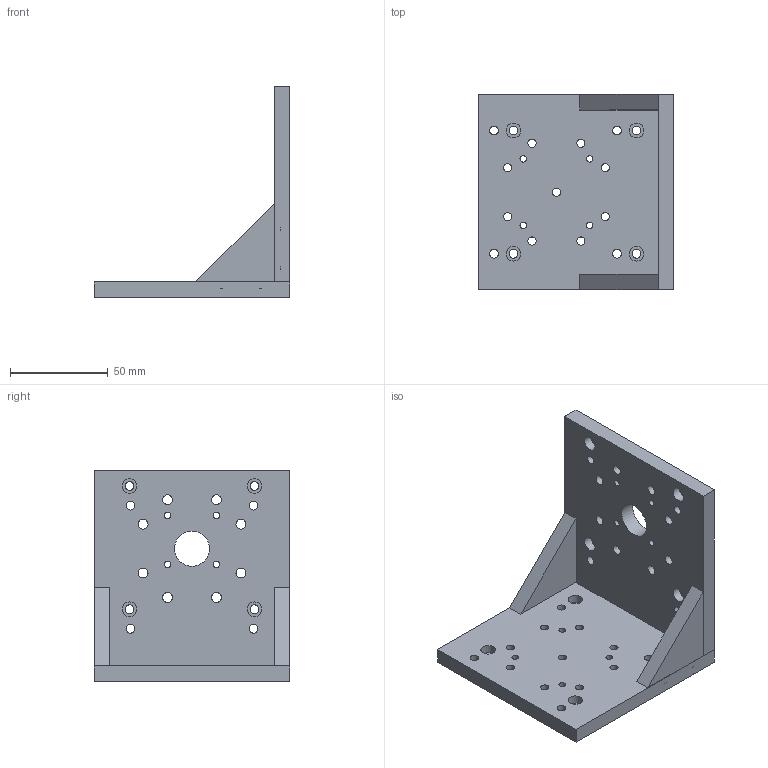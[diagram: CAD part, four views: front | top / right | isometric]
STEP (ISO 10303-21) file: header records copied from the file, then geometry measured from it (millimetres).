
FILE_DESCRIPTION (( 'STEP AP203' ), '1' );
FILE_NAME ('PJK05.STEP', '2020-11-07T05:46:31', ( '' ), ( '' ), 'SwSTEP 2.0', 'SolidWorks 2016', '' );
FILE_SCHEMA (( 'CONFIG_CONTROL_DESIGN' ));
Length unit declared in the file: millimetre
Products named in the file (4): pjk05-菁啣; PJK05; pjk05-樓Ч踐; pjk05-蕾啣
Assembly tree (4 placements, depth 2):
  PJK05
    pjk05-菁啣
    pjk05-樓Ч踐  x2
    pjk05-蕾啣
Bounding box: 100 x 100 x 108 mm (x, y, z)
Volume: 160158.6 mm3; surface area: 58067.3 mm2
Topology: 4 solids, 4 shells, 155 faces, 355 edges, 231 vertices
Faces by surface type: cylinder 95, plane 49, cone 11
Full cylindrical faces by diameter (mm): 3.3 x23, 4.2 x9, 4.5 x27, 5 x8, 7.5 x27, 18 x1
Entity records: 4087 total; most frequent: DIRECTION 675, CARTESIAN_POINT 568, ORIENTED_EDGE 422, EDGE_LOOP 369, AXIS2_PLACEMENT_3D 321, FACE_OUTER_BOUND 229, EDGE_CURVE 211, VERTEX_POINT 198
